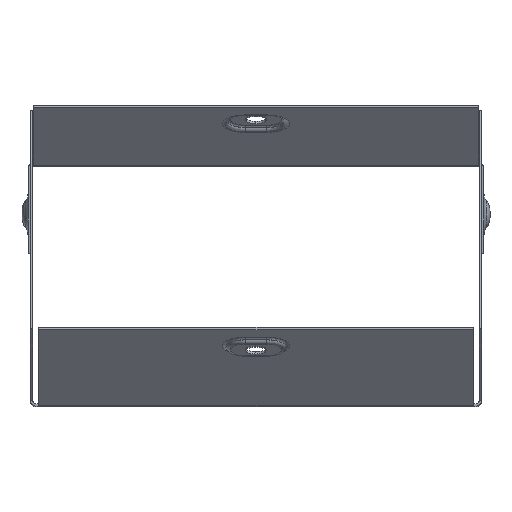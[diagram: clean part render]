
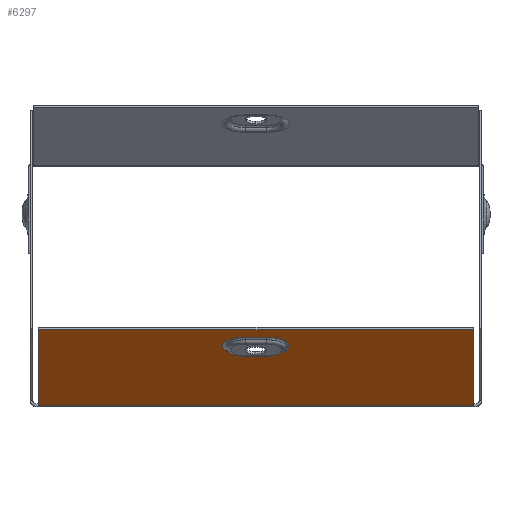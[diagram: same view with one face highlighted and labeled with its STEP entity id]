
A CAD part, top view. The second image highlights one B-rep face of the part: STEP entity #6297.
In plain terms, the highlighted planar face has unit normal (0, -0.924, 0.383).
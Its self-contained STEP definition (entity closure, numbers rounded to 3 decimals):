
#58 = CIRCLE ( 'NONE', #13729, 7.598 ) ;
#63 = VERTEX_POINT ( 'NONE', #10653 ) ;
#192 = VERTEX_POINT ( 'NONE', #5359 ) ;
#276 = VECTOR ( 'NONE', #1252, 1000. ) ;
#296 = DIRECTION ( 'NONE',  ( 0., -0.383, -0.924 ) ) ;
#382 = EDGE_CURVE ( 'NONE', #1782, #5629, #9138, .T. ) ;
#1252 = DIRECTION ( 'NONE',  ( -1., 0., 0. ) ) ;
#1366 = CARTESIAN_POINT ( 'NONE',  ( 72.299, -80.864, 63.921 ) ) ;
#1493 = EDGE_CURVE ( 'NONE', #192, #8393, #10149, .T. ) ;
#1762 = EDGE_CURVE ( 'NONE', #13840, #1851, #5712, .T. ) ;
#1770 = ORIENTED_EDGE ( 'NONE', *, *, #3639, .T. ) ;
#1782 = VERTEX_POINT ( 'NONE', #13860 ) ;
#1851 = VERTEX_POINT ( 'NONE', #4108 ) ;
#1910 = CARTESIAN_POINT ( 'NONE',  ( -72.299, -55.512, 125.125 ) ) ;
#2431 = CARTESIAN_POINT ( 'NONE',  ( 73.2, -80.8, 64.075 ) ) ;
#2489 = DIRECTION ( 'NONE',  ( -1., 0., 0. ) ) ;
#2884 = LINE ( 'NONE', #5683, #3408 ) ;
#3408 = VECTOR ( 'NONE', #296, 1000. ) ;
#3534 = EDGE_LOOP ( 'NONE', ( #10760, #5409, #1770, #5726 ) ) ;
#3597 = LINE ( 'NONE', #10659, #11934 ) ;
#3639 = EDGE_CURVE ( 'NONE', #63, #12642, #3597, .T. ) ;
#4108 = CARTESIAN_POINT ( 'NONE',  ( 3.5, -57.962, 119.21 ) ) ;
#4430 = CARTESIAN_POINT ( 'NONE',  ( -3.5, -63.778, 105.171 ) ) ;
#5359 = CARTESIAN_POINT ( 'NONE',  ( 72.299, -80.663, 64.406 ) ) ;
#5409 = ORIENTED_EDGE ( 'NONE', *, *, #8973, .T. ) ;
#5450 = EDGE_CURVE ( 'NONE', #5629, #8393, #2884, .T. ) ;
#5513 = CARTESIAN_POINT ( 'NONE',  ( -3.5, -60.87, 112.191 ) ) ;
#5629 = VERTEX_POINT ( 'NONE', #1910 ) ;
#5683 = CARTESIAN_POINT ( 'NONE',  ( -72.299, -80.8, 64.075 ) ) ;
#5712 = LINE ( 'NONE', #5946, #8051 ) ;
#5726 = ORIENTED_EDGE ( 'NONE', *, *, #13811, .T. ) ;
#5946 = CARTESIAN_POINT ( 'NONE',  ( 3.5, -57.962, 119.21 ) ) ;
#6297 = ADVANCED_FACE ( 'NONE', ( #8980, #6761 ), #12184, .F. ) ;
#6761 = FACE_OUTER_BOUND ( 'NONE', #12956, .T. ) ;
#6779 = CARTESIAN_POINT ( 'NONE',  ( -3.5, -57.962, 119.21 ) ) ;
#7190 = ORIENTED_EDGE ( 'NONE', *, *, #12786, .T. ) ;
#7216 = DIRECTION ( 'NONE',  ( -1., 0., 0. ) ) ;
#7746 = VECTOR ( 'NONE', #2489, 1000. ) ;
#7875 = DIRECTION ( 'NONE',  ( 0., 0.383, 0.924 ) ) ;
#7897 = DIRECTION ( 'NONE',  ( 0., 0.383, 0.924 ) ) ;
#8051 = VECTOR ( 'NONE', #13566, 1000. ) ;
#8090 = ORIENTED_EDGE ( 'NONE', *, *, #382, .T. ) ;
#8393 = VERTEX_POINT ( 'NONE', #11684 ) ;
#8508 = ORIENTED_EDGE ( 'NONE', *, *, #5450, .T. ) ;
#8552 = CIRCLE ( 'NONE', #10075, 7.598 ) ;
#8730 = LINE ( 'NONE', #1366, #10780 ) ;
#8973 = EDGE_CURVE ( 'NONE', #1851, #63, #58, .T. ) ;
#8980 = FACE_BOUND ( 'NONE', #3534, .T. ) ;
#9009 = CARTESIAN_POINT ( 'NONE',  ( 73.2, -55.512, 125.125 ) ) ;
#9138 = LINE ( 'NONE', #9009, #7746 ) ;
#9795 = DIRECTION ( 'NONE',  ( 0., 0.924, -0.383 ) ) ;
#10075 = AXIS2_PLACEMENT_3D ( 'NONE', #5513, #9795, #11935 ) ;
#10149 = LINE ( 'NONE', #10910, #276 ) ;
#10460 = CARTESIAN_POINT ( 'NONE',  ( 3.5, -60.87, 112.191 ) ) ;
#10653 = CARTESIAN_POINT ( 'NONE',  ( 3.5, -63.778, 105.171 ) ) ;
#10659 = CARTESIAN_POINT ( 'NONE',  ( 3.5, -63.778, 105.171 ) ) ;
#10730 = AXIS2_PLACEMENT_3D ( 'NONE', #2431, #12289, #7875 ) ;
#10760 = ORIENTED_EDGE ( 'NONE', *, *, #1762, .T. ) ;
#10780 = VECTOR ( 'NONE', #7897, 1000. ) ;
#10910 = CARTESIAN_POINT ( 'NONE',  ( 73.2, -80.663, 64.406 ) ) ;
#11276 = ORIENTED_EDGE ( 'NONE', *, *, #1493, .F. ) ;
#11684 = CARTESIAN_POINT ( 'NONE',  ( -72.299, -80.663, 64.406 ) ) ;
#11934 = VECTOR ( 'NONE', #7216, 1000. ) ;
#11935 = DIRECTION ( 'NONE',  ( 0., 0.383, 0.924 ) ) ;
#12184 = PLANE ( 'NONE',  #10730 ) ;
#12289 = DIRECTION ( 'NONE',  ( 0., 0.924, -0.383 ) ) ;
#12642 = VERTEX_POINT ( 'NONE', #4430 ) ;
#12786 = EDGE_CURVE ( 'NONE', #192, #1782, #8730, .T. ) ;
#12956 = EDGE_LOOP ( 'NONE', ( #8508, #11276, #7190, #8090 ) ) ;
#13566 = DIRECTION ( 'NONE',  ( 1., 0., 0. ) ) ;
#13617 = DIRECTION ( 'NONE',  ( 0., 0.924, -0.383 ) ) ;
#13709 = DIRECTION ( 'NONE',  ( 0., 0.383, 0.924 ) ) ;
#13729 = AXIS2_PLACEMENT_3D ( 'NONE', #10460, #13617, #13709 ) ;
#13811 = EDGE_CURVE ( 'NONE', #12642, #13840, #8552, .T. ) ;
#13840 = VERTEX_POINT ( 'NONE', #6779 ) ;
#13860 = CARTESIAN_POINT ( 'NONE',  ( 72.299, -55.512, 125.125 ) ) ;
